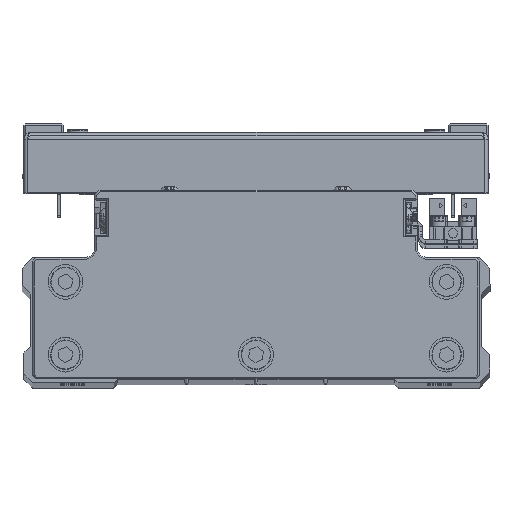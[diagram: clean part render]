
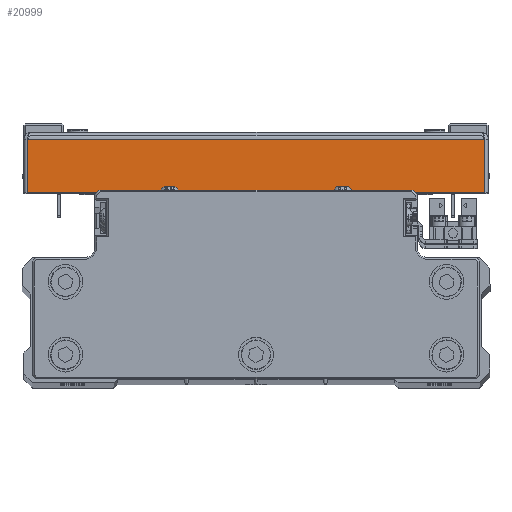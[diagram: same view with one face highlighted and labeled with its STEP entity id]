
A CAD part, top view. The second image highlights one B-rep face of the part: STEP entity #20999.
In plain terms, the highlighted planar face has unit normal (0, 0, 1) as drawn and (1, 0, 0) by its records, which use the part's own axes.
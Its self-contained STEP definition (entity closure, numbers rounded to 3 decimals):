
#1160 = VECTOR ( 'NONE', #39323, 1000. ) ;
#1644 = CARTESIAN_POINT ( 'NONE',  ( 75., 1., -65.929 ) ) ;
#6305 = EDGE_CURVE ( 'NONE', #15529, #33716, #12104, .T. ) ;
#7669 = DIRECTION ( 'NONE',  ( 0., -1., 0. ) ) ;
#7816 = LINE ( 'NONE', #21385, #25993 ) ;
#8481 = LINE ( 'NONE', #22061, #30016 ) ;
#8534 = VERTEX_POINT ( 'NONE', #35877 ) ;
#10835 = CARTESIAN_POINT ( 'NONE',  ( 75., 16.5, -65.929 ) ) ;
#11013 = DIRECTION ( 'NONE',  ( -1., 0., 0. ) ) ;
#11395 = EDGE_CURVE ( 'NONE', #15529, #18207, #12741, .T. ) ;
#12104 = LINE ( 'NONE', #25702, #1160 ) ;
#12202 = AXIS2_PLACEMENT_3D ( 'NONE', #41568, #11013, #7669 ) ;
#12741 = LINE ( 'NONE', #26328, #18489 ) ;
#13023 = EDGE_CURVE ( 'NONE', #18207, #8534, #8481, .T. ) ;
#14365 = FACE_OUTER_BOUND ( 'NONE', #28583, .T. ) ;
#14584 = EDGE_CURVE ( 'NONE', #33716, #8534, #7816, .T. ) ;
#15529 = VERTEX_POINT ( 'NONE', #1644 ) ;
#18207 = VERTEX_POINT ( 'NONE', #10835 ) ;
#18489 = VECTOR ( 'NONE', #39956, 1000. ) ;
#20999 = ADVANCED_FACE ( 'NONE', ( #14365 ), #27949, .F. ) ;
#21385 = CARTESIAN_POINT ( 'NONE',  ( 75., 0., 65.929 ) ) ;
#22061 = CARTESIAN_POINT ( 'NONE',  ( 75., 16.5, 0. ) ) ;
#24564 = ORIENTED_EDGE ( 'NONE', *, *, #6305, .F. ) ;
#25702 = CARTESIAN_POINT ( 'NONE',  ( 75., 1., 67. ) ) ;
#25993 = VECTOR ( 'NONE', #35017, 1000. ) ;
#26035 = ORIENTED_EDGE ( 'NONE', *, *, #13023, .T. ) ;
#26328 = CARTESIAN_POINT ( 'NONE',  ( 75., 0., -65.929 ) ) ;
#27949 = PLANE ( 'NONE',  #12202 ) ;
#28583 = EDGE_LOOP ( 'NONE', ( #24564, #33321, #26035, #35309 ) ) ;
#30016 = VECTOR ( 'NONE', #35680, 1000. ) ;
#33321 = ORIENTED_EDGE ( 'NONE', *, *, #11395, .T. ) ;
#33716 = VERTEX_POINT ( 'NONE', #38889 ) ;
#35017 = DIRECTION ( 'NONE',  ( 0., 1., 0. ) ) ;
#35309 = ORIENTED_EDGE ( 'NONE', *, *, #14584, .F. ) ;
#35680 = DIRECTION ( 'NONE',  ( 0., 0., 1. ) ) ;
#35877 = CARTESIAN_POINT ( 'NONE',  ( 75., 16.5, 65.929 ) ) ;
#38889 = CARTESIAN_POINT ( 'NONE',  ( 75., 1., 65.929 ) ) ;
#39323 = DIRECTION ( 'NONE',  ( 0., 0., 1. ) ) ;
#39956 = DIRECTION ( 'NONE',  ( 0., 1., 0. ) ) ;
#41568 = CARTESIAN_POINT ( 'NONE',  ( 75., 0., 0. ) ) ;
